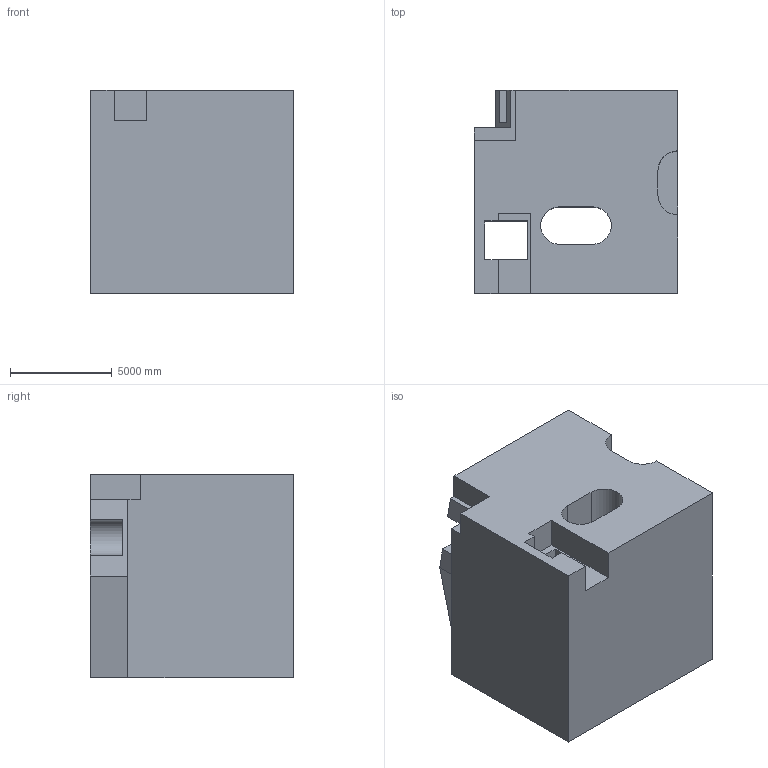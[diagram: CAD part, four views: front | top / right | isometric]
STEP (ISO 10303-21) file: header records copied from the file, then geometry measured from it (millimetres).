
FILE_DESCRIPTION (( 'STEP AP203' ), '1' );
FILE_NAME ('833.STEP', '2022-07-29T13:33:44', ( 'user' ), ( '' ), 'SwSTEP 2.0', 'SolidWorks 2021', '' );
FILE_SCHEMA (( 'CONFIG_CONTROL_DESIGN' ));
Length unit declared in the file: centimetre
Products named in the file (1): 833
Bounding box: 10000 x 10000 x 10000 mm (x, y, z)
Volume: 833691986248.4 mm3; surface area: 774197277.8 mm2
Topology: 1 solids, 1 shells, 40 faces, 117 edges, 78 vertices
Faces by surface type: plane 34, cylinder 6
Entity records: 1398 total; most frequent: CARTESIAN_POINT 236, ORIENTED_EDGE 234, DIRECTION 211, EDGE_CURVE 117, VECTOR 105, LINE 105, VERTEX_POINT 78, AXIS2_PLACEMENT_3D 53
